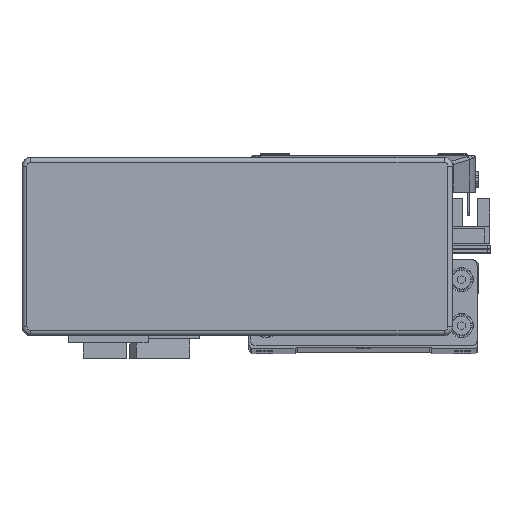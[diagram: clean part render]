
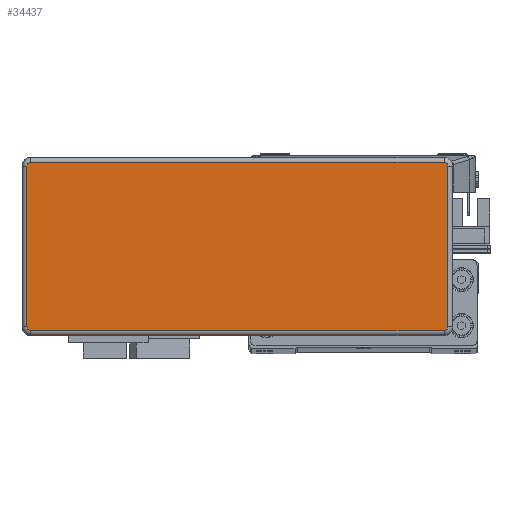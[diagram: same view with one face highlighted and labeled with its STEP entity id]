
A CAD part, top view. The second image highlights one B-rep face of the part: STEP entity #34437.
In plain terms, the highlighted planar face has unit normal (0, 0, 1) as drawn and (0, 0, -1) by its records, which use the part's own axes.
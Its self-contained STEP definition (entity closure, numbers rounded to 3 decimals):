
#11878 = AXIS2_PLACEMENT_3D ( 'NONE', #23679, #23649, #23688 ) ;
#11901 = AXIS2_PLACEMENT_3D ( 'NONE', #23452, #23460, #23439 ) ;
#11903 = AXIS2_PLACEMENT_3D ( 'NONE', #23743, #23748, #23741 ) ;
#11912 = AXIS2_PLACEMENT_3D ( 'NONE', #23433, #23405, #23420 ) ;
#17188 = CARTESIAN_POINT ( 'NONE',  ( -73.295, -27.995, -32.2 ) ) ;
#17202 = CARTESIAN_POINT ( 'NONE',  ( 73.295, -27.995, -32.2 ) ) ;
#17229 = CARTESIAN_POINT ( 'NONE',  ( 73.295, 27.995, -32.2 ) ) ;
#17231 = CARTESIAN_POINT ( 'NONE',  ( -73.295, 27.995, -32.2 ) ) ;
#17232 = CARTESIAN_POINT ( 'NONE',  ( 71.995, 29.295, -32.2 ) ) ;
#17237 = CARTESIAN_POINT ( 'NONE',  ( -71.995, 29.295, -32.2 ) ) ;
#17239 = CARTESIAN_POINT ( 'NONE',  ( 71.995, -29.295, -32.2 ) ) ;
#17247 = CARTESIAN_POINT ( 'NONE',  ( -71.995, -29.295, -32.2 ) ) ;
#23405 = DIRECTION ( 'NONE',  ( 0., 0., -1. ) ) ;
#23420 = DIRECTION ( 'NONE',  ( 1., 0., 0. ) ) ;
#23433 = CARTESIAN_POINT ( 'NONE',  ( 71.995, 27.995, -32.2 ) ) ;
#23439 = DIRECTION ( 'NONE',  ( 1., 0., 0. ) ) ;
#23452 = CARTESIAN_POINT ( 'NONE',  ( 71.995, -27.995, -32.2 ) ) ;
#23460 = DIRECTION ( 'NONE',  ( 0., 0., -1. ) ) ;
#23479 = CARTESIAN_POINT ( 'NONE',  ( 71.995, -29.295, -32.2 ) ) ;
#23516 = DIRECTION ( 'NONE',  ( -1., 0., 0. ) ) ;
#23593 = CARTESIAN_POINT ( 'NONE',  ( -73.295, -27.995, -32.2 ) ) ;
#23639 = DIRECTION ( 'NONE',  ( 0., 1., 0. ) ) ;
#23649 = DIRECTION ( 'NONE',  ( 0., 0., -1. ) ) ;
#23653 = CARTESIAN_POINT ( 'NONE',  ( 71.995, 29.295, -32.2 ) ) ;
#23660 = CARTESIAN_POINT ( 'NONE',  ( 73.295, -27.995, -32.2 ) ) ;
#23677 = DIRECTION ( 'NONE',  ( 0., -1., 0. ) ) ;
#23679 = CARTESIAN_POINT ( 'NONE',  ( -71.995, -27.995, -32.2 ) ) ;
#23680 = DIRECTION ( 'NONE',  ( 1., 0., 0. ) ) ;
#23688 = DIRECTION ( 'NONE',  ( 1., 0., 0. ) ) ;
#23741 = DIRECTION ( 'NONE',  ( 1., 0., 0. ) ) ;
#23743 = CARTESIAN_POINT ( 'NONE',  ( -71.995, 27.995, -32.2 ) ) ;
#23748 = DIRECTION ( 'NONE',  ( 0., 0., -1. ) ) ;
#24210 = CIRCLE ( 'NONE', #11912, 1.3 ) ;
#24214 = CIRCLE ( 'NONE', #11901, 1.3 ) ;
#24264 = VECTOR ( 'NONE', #23516, 1000. ) ;
#24301 = LINE ( 'NONE', #23479, #24264 ) ;
#24340 = LINE ( 'NONE', #23660, #24351 ) ;
#24351 = VECTOR ( 'NONE', #23677, 1000. ) ;
#24370 = VECTOR ( 'NONE', #23680, 1000. ) ;
#24374 = VECTOR ( 'NONE', #23639, 1000. ) ;
#24377 = LINE ( 'NONE', #23593, #24374 ) ;
#24378 = LINE ( 'NONE', #23653, #24370 ) ;
#24379 = CIRCLE ( 'NONE', #11878, 1.3 ) ;
#24402 = CIRCLE ( 'NONE', #11903, 1.3 ) ;
#33100 = DIRECTION ( 'NONE',  ( 0., 0., 1. ) ) ;
#33104 = PLANE ( 'NONE',  #36658 ) ;
#33116 = DIRECTION ( 'NONE',  ( 1., 0., 0. ) ) ;
#33124 = CARTESIAN_POINT ( 'NONE',  ( 71.995, -27.995, -32.2 ) ) ;
#34437 = ADVANCED_FACE ( 'NONE', ( #39843 ), #33104, .F. ) ;
#36658 = AXIS2_PLACEMENT_3D ( 'NONE', #33124, #33100, #33116 ) ;
#39770 = VERTEX_POINT ( 'NONE', #17229 ) ;
#39779 = VERTEX_POINT ( 'NONE', #17188 ) ;
#39780 = VERTEX_POINT ( 'NONE', #17231 ) ;
#39781 = VERTEX_POINT ( 'NONE', #17232 ) ;
#39800 = VERTEX_POINT ( 'NONE', #17202 ) ;
#39806 = VERTEX_POINT ( 'NONE', #17237 ) ;
#39807 = VERTEX_POINT ( 'NONE', #17247 ) ;
#39808 = VERTEX_POINT ( 'NONE', #17239 ) ;
#39843 = FACE_OUTER_BOUND ( 'NONE', #45216, .T. ) ;
#43277 = EDGE_CURVE ( 'NONE', #39781, #39770, #24210, .T. ) ;
#43296 = EDGE_CURVE ( 'NONE', #39800, #39808, #24214, .T. ) ;
#43325 = EDGE_CURVE ( 'NONE', #39808, #39807, #24301, .T. ) ;
#43418 = EDGE_CURVE ( 'NONE', #39779, #39780, #24377, .T. ) ;
#43464 = EDGE_CURVE ( 'NONE', #39806, #39781, #24378, .T. ) ;
#43471 = EDGE_CURVE ( 'NONE', #39807, #39779, #24379, .T. ) ;
#43488 = EDGE_CURVE ( 'NONE', #39770, #39800, #24340, .T. ) ;
#43518 = EDGE_CURVE ( 'NONE', #39780, #39806, #24402, .T. ) ;
#45216 = EDGE_LOOP ( 'NONE', ( #47113, #47104, #47044, #47155, #47132, #47064, #47129, #47142 ) ) ;
#47044 = ORIENTED_EDGE ( 'NONE', *, *, #43325, .T. ) ;
#47064 = ORIENTED_EDGE ( 'NONE', *, *, #43518, .T. ) ;
#47104 = ORIENTED_EDGE ( 'NONE', *, *, #43296, .T. ) ;
#47113 = ORIENTED_EDGE ( 'NONE', *, *, #43488, .T. ) ;
#47129 = ORIENTED_EDGE ( 'NONE', *, *, #43464, .T. ) ;
#47132 = ORIENTED_EDGE ( 'NONE', *, *, #43418, .T. ) ;
#47142 = ORIENTED_EDGE ( 'NONE', *, *, #43277, .T. ) ;
#47155 = ORIENTED_EDGE ( 'NONE', *, *, #43471, .T. ) ;
